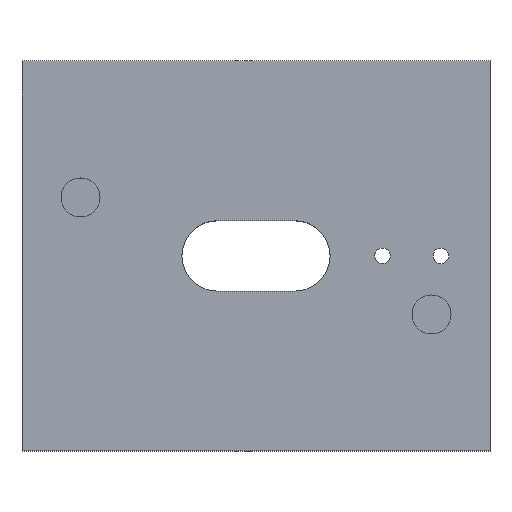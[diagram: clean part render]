
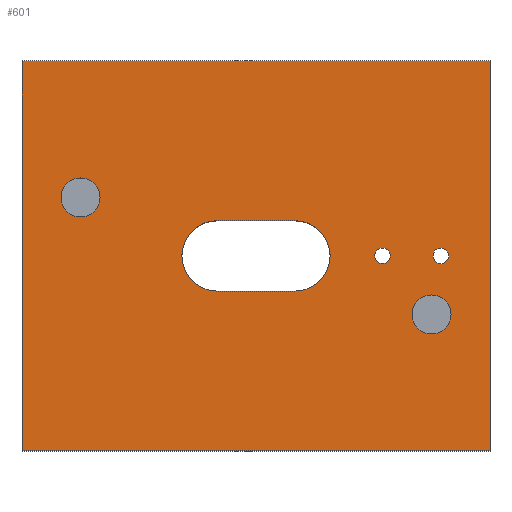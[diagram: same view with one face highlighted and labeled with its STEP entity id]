
A CAD part, top view. The second image highlights one B-rep face of the part: STEP entity #601.
In plain terms, the highlighted planar face has unit normal (0, 0, 1).
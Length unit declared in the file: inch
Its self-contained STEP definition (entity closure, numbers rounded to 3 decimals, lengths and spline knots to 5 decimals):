
#1 = EDGE_LOOP ( 'NONE', ( #676, #165 ) ) ;
#20 = VECTOR ( 'NONE', #563, 39.37008 ) ;
#29 = VERTEX_POINT ( 'NONE', #648 ) ;
#33 = ORIENTED_EDGE ( 'NONE', *, *, #284, .F. ) ;
#35 = CIRCLE ( 'NONE', #118, 0.45 ) ;
#39 = LINE ( 'NONE', #743, #53 ) ;
#40 = CARTESIAN_POINT ( 'NONE',  ( 1.52, 0., 1.25 ) ) ;
#42 = VERTEX_POINT ( 'NONE', #329 ) ;
#43 = EDGE_CURVE ( 'NONE', #287, #403, #634, .T. ) ;
#45 = CARTESIAN_POINT ( 'NONE',  ( 3., 2.5, 1.25 ) ) ;
#46 = CARTESIAN_POINT ( 'NONE',  ( -2., 0.75, 1.25 ) ) ;
#53 = VECTOR ( 'NONE', #95, 39.37008 ) ;
#54 = CARTESIAN_POINT ( 'NONE',  ( 2.37, 0., 1.25 ) ) ;
#57 = EDGE_LOOP ( 'NONE', ( #375, #142, #174, #229 ) ) ;
#69 = AXIS2_PLACEMENT_3D ( 'NONE', #410, #172, #425 ) ;
#75 = AXIS2_PLACEMENT_3D ( 'NONE', #658, #119, #392 ) ;
#76 = DIRECTION ( 'NONE',  ( 0., 1., 0. ) ) ;
#77 = ORIENTED_EDGE ( 'NONE', *, *, #663, .F. ) ;
#78 = FACE_BOUND ( 'NONE', #409, .T. ) ;
#88 = CARTESIAN_POINT ( 'NONE',  ( 2.47, 0., 1.25 ) ) ;
#93 = EDGE_LOOP ( 'NONE', ( #33, #417 ) ) ;
#95 = DIRECTION ( 'NONE',  ( 1., 0., 0. ) ) ;
#98 = ORIENTED_EDGE ( 'NONE', *, *, #703, .F. ) ;
#113 = DIRECTION ( 'NONE',  ( 1., 0., 0. ) ) ;
#116 = VERTEX_POINT ( 'NONE', #195 ) ;
#117 = LINE ( 'NONE', #45, #655 ) ;
#118 = AXIS2_PLACEMENT_3D ( 'NONE', #613, #419, #537 ) ;
#119 = DIRECTION ( 'NONE',  ( 0., 0., 1. ) ) ;
#129 = AXIS2_PLACEMENT_3D ( 'NONE', #364, #424, #508 ) ;
#130 = CARTESIAN_POINT ( 'NONE',  ( -2.5, 0.75, 1.25 ) ) ;
#134 = DIRECTION ( 'NONE',  ( 1., 0., 0. ) ) ;
#139 = ORIENTED_EDGE ( 'NONE', *, *, #43, .F. ) ;
#142 = ORIENTED_EDGE ( 'NONE', *, *, #436, .T. ) ;
#164 = CARTESIAN_POINT ( 'NONE',  ( 3., -2.5, 1.25 ) ) ;
#165 = ORIENTED_EDGE ( 'NONE', *, *, #569, .F. ) ;
#172 = DIRECTION ( 'NONE',  ( 0., 0., 1. ) ) ;
#174 = ORIENTED_EDGE ( 'NONE', *, *, #226, .T. ) ;
#184 = AXIS2_PLACEMENT_3D ( 'NONE', #285, #799, #616 ) ;
#194 = CIRCLE ( 'NONE', #784, 0.45 ) ;
#195 = CARTESIAN_POINT ( 'NONE',  ( -3., -2.5, 1.25 ) ) ;
#200 = EDGE_CURVE ( 'NONE', #816, #691, #35, .T. ) ;
#207 = FACE_OUTER_BOUND ( 'NONE', #57, .T. ) ;
#211 = FACE_BOUND ( 'NONE', #570, .T. ) ;
#212 = EDGE_CURVE ( 'NONE', #383, #834, #665, .T. ) ;
#216 = VECTOR ( 'NONE', #712, 39.37008 ) ;
#220 = FACE_BOUND ( 'NONE', #719, .T. ) ;
#226 = EDGE_CURVE ( 'NONE', #829, #29, #671, .T. ) ;
#229 = ORIENTED_EDGE ( 'NONE', *, *, #836, .T. ) ;
#234 = CIRCLE ( 'NONE', #391, 0.1 ) ;
#239 = CARTESIAN_POINT ( 'NONE',  ( -3., 2.5, 1.25 ) ) ;
#253 = DIRECTION ( 'NONE',  ( -1., 0., 0. ) ) ;
#284 = EDGE_CURVE ( 'NONE', #545, #525, #314, .T. ) ;
#285 = CARTESIAN_POINT ( 'NONE',  ( -2.25, 0.75, 1.25 ) ) ;
#287 = VERTEX_POINT ( 'NONE', #421 ) ;
#290 = CARTESIAN_POINT ( 'NONE',  ( 0., 0., 1.25 ) ) ;
#291 = CARTESIAN_POINT ( 'NONE',  ( 3., -2.5, 1.25 ) ) ;
#293 = AXIS2_PLACEMENT_3D ( 'NONE', #653, #781, #316 ) ;
#302 = LINE ( 'NONE', #164, #20 ) ;
#309 = ORIENTED_EDGE ( 'NONE', *, *, #558, .F. ) ;
#310 = DIRECTION ( 'NONE',  ( 0., 0., 1. ) ) ;
#314 = CIRCLE ( 'NONE', #184, 0.25 ) ;
#316 = DIRECTION ( 'NONE',  ( 1., 0., 0. ) ) ;
#325 = VERTEX_POINT ( 'NONE', #239 ) ;
#326 = CARTESIAN_POINT ( 'NONE',  ( 3., -2.5, 1.25 ) ) ;
#329 = CARTESIAN_POINT ( 'NONE',  ( 0.5, -0.45, 1.25 ) ) ;
#330 = CIRCLE ( 'NONE', #544, 0.25 ) ;
#335 = VERTEX_POINT ( 'NONE', #40 ) ;
#340 = EDGE_CURVE ( 'NONE', #325, #116, #373, .T. ) ;
#341 = CIRCLE ( 'NONE', #75, 0.1 ) ;
#346 = EDGE_CURVE ( 'NONE', #42, #666, #368, .T. ) ;
#363 = CARTESIAN_POINT ( 'NONE',  ( 0.5, 0.45, 1.25 ) ) ;
#364 = CARTESIAN_POINT ( 'NONE',  ( 0.5, 0., 1.25 ) ) ;
#368 = CIRCLE ( 'NONE', #129, 0.45 ) ;
#373 = LINE ( 'NONE', #813, #733 ) ;
#375 = ORIENTED_EDGE ( 'NONE', *, *, #340, .T. ) ;
#383 = VERTEX_POINT ( 'NONE', #493 ) ;
#385 = ORIENTED_EDGE ( 'NONE', *, *, #497, .F. ) ;
#388 = AXIS2_PLACEMENT_3D ( 'NONE', #802, #675, #607 ) ;
#389 = VERTEX_POINT ( 'NONE', #501 ) ;
#391 = AXIS2_PLACEMENT_3D ( 'NONE', #557, #629, #812 ) ;
#392 = DIRECTION ( 'NONE',  ( 1., 0., 0. ) ) ;
#399 = ORIENTED_EDGE ( 'NONE', *, *, #200, .F. ) ;
#403 = VERTEX_POINT ( 'NONE', #88 ) ;
#409 = EDGE_LOOP ( 'NONE', ( #139, #521 ) ) ;
#410 = CARTESIAN_POINT ( 'NONE',  ( 1.62, 0., 1.25 ) ) ;
#417 = ORIENTED_EDGE ( 'NONE', *, *, #524, .F. ) ;
#419 = DIRECTION ( 'NONE',  ( 0., 0., 1. ) ) ;
#421 = CARTESIAN_POINT ( 'NONE',  ( 2.27, 0., 1.25 ) ) ;
#424 = DIRECTION ( 'NONE',  ( 0., 0., 1. ) ) ;
#425 = DIRECTION ( 'NONE',  ( 1., 0., 0. ) ) ;
#431 = CIRCLE ( 'NONE', #69, 0.1 ) ;
#436 = EDGE_CURVE ( 'NONE', #116, #829, #302, .T. ) ;
#452 = ORIENTED_EDGE ( 'NONE', *, *, #828, .F. ) ;
#493 = CARTESIAN_POINT ( 'NONE',  ( 2.5, -0.75, 1.25 ) ) ;
#497 = EDGE_CURVE ( 'NONE', #666, #389, #589, .T. ) ;
#501 = CARTESIAN_POINT ( 'NONE',  ( -0.5, 0.45, 1.25 ) ) ;
#508 = DIRECTION ( 'NONE',  ( 1., 0., 0. ) ) ;
#521 = ORIENTED_EDGE ( 'NONE', *, *, #773, .F. ) ;
#524 = EDGE_CURVE ( 'NONE', #525, #545, #330, .T. ) ;
#525 = VERTEX_POINT ( 'NONE', #130 ) ;
#530 = CARTESIAN_POINT ( 'NONE',  ( -2.25, 0.75, 1.25 ) ) ;
#536 = CARTESIAN_POINT ( 'NONE',  ( 1.72, 0., 1.25 ) ) ;
#537 = DIRECTION ( 'NONE',  ( 1., 0., 0. ) ) ;
#539 = VECTOR ( 'NONE', #76, 39.37008 ) ;
#542 = DIRECTION ( 'NONE',  ( 0., 0., 1. ) ) ;
#544 = AXIS2_PLACEMENT_3D ( 'NONE', #530, #708, #113 ) ;
#545 = VERTEX_POINT ( 'NONE', #46 ) ;
#556 = CIRCLE ( 'NONE', #293, 0.25 ) ;
#557 = CARTESIAN_POINT ( 'NONE',  ( 2.37, 0., 1.25 ) ) ;
#558 = EDGE_CURVE ( 'NONE', #606, #335, #341, .T. ) ;
#563 = DIRECTION ( 'NONE',  ( 1., 0., 0. ) ) ;
#567 = CARTESIAN_POINT ( 'NONE',  ( -0.95, 0., 1.25 ) ) ;
#569 = EDGE_CURVE ( 'NONE', #834, #383, #556, .T. ) ;
#570 = EDGE_LOOP ( 'NONE', ( #98, #399, #452, #385, #819 ) ) ;
#580 = AXIS2_PLACEMENT_3D ( 'NONE', #54, #709, #844 ) ;
#589 = LINE ( 'NONE', #772, #216 ) ;
#601 = ADVANCED_FACE ( 'NONE', ( #732, #220, #78, #617, #207, #211 ), #789, .T. ) ;
#606 = VERTEX_POINT ( 'NONE', #536 ) ;
#607 = DIRECTION ( 'NONE',  ( 1., 0., 0. ) ) ;
#613 = CARTESIAN_POINT ( 'NONE',  ( -0.5, 0., 1.25 ) ) ;
#616 = DIRECTION ( 'NONE',  ( 1., 0., 0. ) ) ;
#617 = FACE_BOUND ( 'NONE', #93, .T. ) ;
#629 = DIRECTION ( 'NONE',  ( 0., 0., 1. ) ) ;
#630 = DIRECTION ( 'NONE',  ( 0., -1., 0. ) ) ;
#634 = CIRCLE ( 'NONE', #580, 0.1 ) ;
#641 = CARTESIAN_POINT ( 'NONE',  ( 2., -0.75, 1.25 ) ) ;
#648 = CARTESIAN_POINT ( 'NONE',  ( 3., 2.5, 1.25 ) ) ;
#653 = CARTESIAN_POINT ( 'NONE',  ( 2.25, -0.75, 1.25 ) ) ;
#655 = VECTOR ( 'NONE', #253, 39.37008 ) ;
#658 = CARTESIAN_POINT ( 'NONE',  ( 1.62, 0., 1.25 ) ) ;
#663 = EDGE_CURVE ( 'NONE', #335, #606, #431, .T. ) ;
#665 = CIRCLE ( 'NONE', #388, 0.25 ) ;
#666 = VERTEX_POINT ( 'NONE', #363 ) ;
#667 = AXIS2_PLACEMENT_3D ( 'NONE', #290, #542, #134 ) ;
#671 = LINE ( 'NONE', #291, #539 ) ;
#675 = DIRECTION ( 'NONE',  ( 0., 0., 1. ) ) ;
#676 = ORIENTED_EDGE ( 'NONE', *, *, #212, .F. ) ;
#684 = CARTESIAN_POINT ( 'NONE',  ( -0.5, 0., 1.25 ) ) ;
#691 = VERTEX_POINT ( 'NONE', #761 ) ;
#703 = EDGE_CURVE ( 'NONE', #691, #42, #39, .T. ) ;
#708 = DIRECTION ( 'NONE',  ( 0., 0., 1. ) ) ;
#709 = DIRECTION ( 'NONE',  ( 0., 0., 1. ) ) ;
#712 = DIRECTION ( 'NONE',  ( -1., 0., 0. ) ) ;
#719 = EDGE_LOOP ( 'NONE', ( #77, #309 ) ) ;
#732 = FACE_BOUND ( 'NONE', #1, .T. ) ;
#733 = VECTOR ( 'NONE', #630, 39.37008 ) ;
#743 = CARTESIAN_POINT ( 'NONE',  ( -0.5, -0.45, 1.25 ) ) ;
#761 = CARTESIAN_POINT ( 'NONE',  ( -0.5, -0.45, 1.25 ) ) ;
#772 = CARTESIAN_POINT ( 'NONE',  ( -0.5, 0.45, 1.25 ) ) ;
#773 = EDGE_CURVE ( 'NONE', #403, #287, #234, .T. ) ;
#781 = DIRECTION ( 'NONE',  ( 0., 0., 1. ) ) ;
#784 = AXIS2_PLACEMENT_3D ( 'NONE', #684, #310, #842 ) ;
#789 = PLANE ( 'NONE',  #667 ) ;
#799 = DIRECTION ( 'NONE',  ( 0., 0., 1. ) ) ;
#802 = CARTESIAN_POINT ( 'NONE',  ( 2.25, -0.75, 1.25 ) ) ;
#812 = DIRECTION ( 'NONE',  ( 1., 0., 0. ) ) ;
#813 = CARTESIAN_POINT ( 'NONE',  ( -3., -2.5, 1.25 ) ) ;
#816 = VERTEX_POINT ( 'NONE', #567 ) ;
#819 = ORIENTED_EDGE ( 'NONE', *, *, #346, .F. ) ;
#828 = EDGE_CURVE ( 'NONE', #389, #816, #194, .T. ) ;
#829 = VERTEX_POINT ( 'NONE', #326 ) ;
#834 = VERTEX_POINT ( 'NONE', #641 ) ;
#836 = EDGE_CURVE ( 'NONE', #29, #325, #117, .T. ) ;
#842 = DIRECTION ( 'NONE',  ( 1., 0., 0. ) ) ;
#844 = DIRECTION ( 'NONE',  ( 1., 0., 0. ) ) ;
